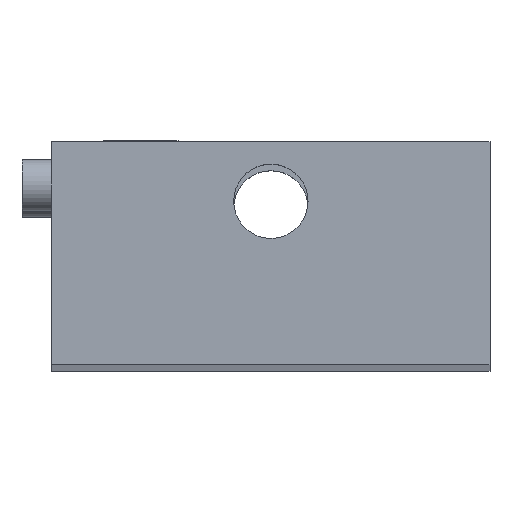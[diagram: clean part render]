
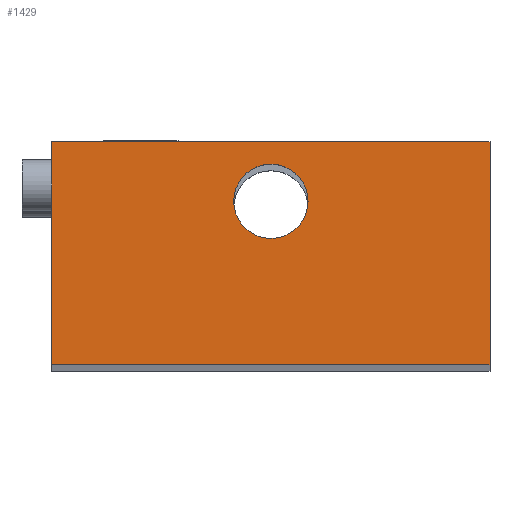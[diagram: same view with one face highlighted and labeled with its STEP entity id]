
A CAD part, top view. The second image highlights one B-rep face of the part: STEP entity #1429.
In plain terms, the highlighted planar face has unit normal (0, 0, 1).
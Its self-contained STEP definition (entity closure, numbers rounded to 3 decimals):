
#1 = DIRECTION ( 'NONE',  ( -1., 0., 0. ) ) ;
#15 = VERTEX_POINT ( 'NONE', #540 ) ;
#48 = EDGE_CURVE ( 'NONE', #481, #15, #287, .T. ) ;
#111 = CARTESIAN_POINT ( 'NONE',  ( 0., 30., 260. ) ) ;
#114 = VERTEX_POINT ( 'NONE', #131 ) ;
#131 = CARTESIAN_POINT ( 'NONE',  ( 34.5, 22., 260. ) ) ;
#184 = VECTOR ( 'NONE', #1211, 1000. ) ;
#186 = DIRECTION ( 'NONE',  ( 0., 0., 1. ) ) ;
#215 = EDGE_CURVE ( 'NONE', #1269, #1101, #1788, .T. ) ;
#224 = EDGE_CURVE ( 'NONE', #114, #1045, #1648, .T. ) ;
#232 = ORIENTED_EDGE ( 'NONE', *, *, #48, .T. ) ;
#259 = AXIS2_PLACEMENT_3D ( 'NONE', #573, #186, #1639 ) ;
#281 = CARTESIAN_POINT ( 'NONE',  ( 29.5, 22., 260. ) ) ;
#287 = LINE ( 'NONE', #111, #1121 ) ;
#416 = DIRECTION ( 'NONE',  ( 1., 0., 0. ) ) ;
#463 = CARTESIAN_POINT ( 'NONE',  ( 0., 0., 260. ) ) ;
#473 = CARTESIAN_POINT ( 'NONE',  ( 59., 30., 260. ) ) ;
#481 = VERTEX_POINT ( 'NONE', #1391 ) ;
#517 = ORIENTED_EDGE ( 'NONE', *, *, #224, .F. ) ;
#540 = CARTESIAN_POINT ( 'NONE',  ( 0., 30., 260. ) ) ;
#555 = ORIENTED_EDGE ( 'NONE', *, *, #215, .T. ) ;
#573 = CARTESIAN_POINT ( 'NONE',  ( 29.5, 22., 260. ) ) ;
#623 = EDGE_LOOP ( 'NONE', ( #665, #517 ) ) ;
#629 = LINE ( 'NONE', #473, #184 ) ;
#665 = ORIENTED_EDGE ( 'NONE', *, *, #1251, .F. ) ;
#678 = FACE_BOUND ( 'NONE', #623, .T. ) ;
#715 = DIRECTION ( 'NONE',  ( 0., 0., 1. ) ) ;
#759 = VECTOR ( 'NONE', #1779, 1000. ) ;
#808 = CARTESIAN_POINT ( 'NONE',  ( 0., 30., 260. ) ) ;
#809 = ORIENTED_EDGE ( 'NONE', *, *, #1584, .T. ) ;
#881 = AXIS2_PLACEMENT_3D ( 'NONE', #281, #715, #416 ) ;
#957 = LINE ( 'NONE', #808, #1012 ) ;
#1012 = VECTOR ( 'NONE', #1412, 1000. ) ;
#1045 = VERTEX_POINT ( 'NONE', #1406 ) ;
#1101 = VERTEX_POINT ( 'NONE', #1794 ) ;
#1112 = DIRECTION ( 'NONE',  ( 0., 0., 1. ) ) ;
#1121 = VECTOR ( 'NONE', #1, 1000. ) ;
#1211 = DIRECTION ( 'NONE',  ( 0., 1., 0. ) ) ;
#1251 = EDGE_CURVE ( 'NONE', #1045, #114, #1706, .T. ) ;
#1261 = PLANE ( 'NONE',  #1684 ) ;
#1269 = VERTEX_POINT ( 'NONE', #1425 ) ;
#1281 = FACE_OUTER_BOUND ( 'NONE', #1287, .T. ) ;
#1287 = EDGE_LOOP ( 'NONE', ( #1550, #555, #809, #232 ) ) ;
#1391 = CARTESIAN_POINT ( 'NONE',  ( 59., 30., 260. ) ) ;
#1406 = CARTESIAN_POINT ( 'NONE',  ( 24.5, 22., 260. ) ) ;
#1412 = DIRECTION ( 'NONE',  ( 0., -1., 0. ) ) ;
#1415 = DIRECTION ( 'NONE',  ( 1., 0., 0. ) ) ;
#1425 = CARTESIAN_POINT ( 'NONE',  ( 0., 0., 260. ) ) ;
#1429 = ADVANCED_FACE ( 'NONE', ( #1281, #678 ), #1261, .T. ) ;
#1550 = ORIENTED_EDGE ( 'NONE', *, *, #1731, .T. ) ;
#1584 = EDGE_CURVE ( 'NONE', #1101, #481, #629, .T. ) ;
#1639 = DIRECTION ( 'NONE',  ( 1., 0., 0. ) ) ;
#1648 = CIRCLE ( 'NONE', #259, 5. ) ;
#1684 = AXIS2_PLACEMENT_3D ( 'NONE', #1842, #1112, #1415 ) ;
#1706 = CIRCLE ( 'NONE', #881, 5. ) ;
#1731 = EDGE_CURVE ( 'NONE', #15, #1269, #957, .T. ) ;
#1779 = DIRECTION ( 'NONE',  ( 1., 0., 0. ) ) ;
#1788 = LINE ( 'NONE', #463, #759 ) ;
#1794 = CARTESIAN_POINT ( 'NONE',  ( 59., 0., 260. ) ) ;
#1842 = CARTESIAN_POINT ( 'NONE',  ( 0., 0., 260. ) ) ;
